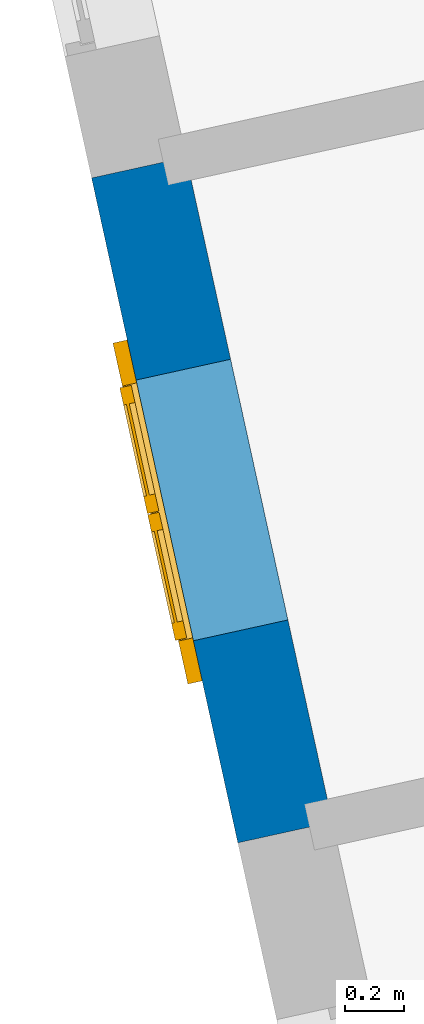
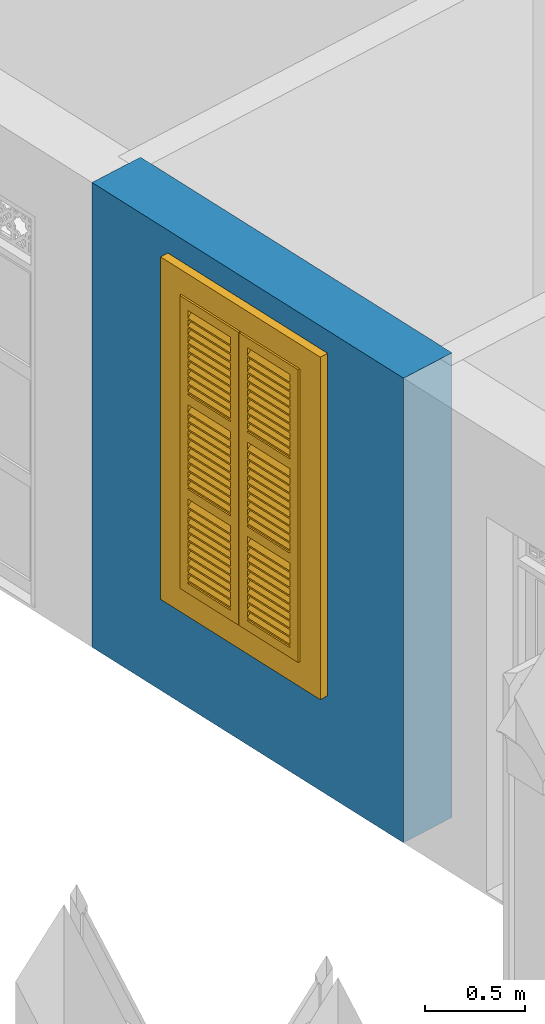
# One storey, part 11 of 14: 1 wall, 1 window, 1 opening.
"""IFC4 building model written with IfcOpenShell, lengths in metres."""

from ifc_helpers import new_model, si_unit, frame, origin, origin_with_axes, place, context, subcontext, project, spatial, polyline, outline, extrude, faceted_brep, source, transform, mapped, material, layer, layer_set, layer_usage, type_object, type_shapes, element, fill, save


model = new_model("IFC4")

# Units and contexts
model_context = context("Model", 3, world=origin_with_axes())
body_context = subcontext(model_context, "Body", "Model", "MODEL_VIEW")
ifc_project = project(units=[si_unit("PLANEANGLEUNIT", "RADIAN"), si_unit("MASSUNIT", "GRAM", prefix="KILO"), si_unit("FORCEUNIT", "NEWTON", prefix="KILO"), si_unit("LENGTHUNIT", "METRE"), si_unit("AREAUNIT", "SQUARE_METRE"), si_unit("VOLUMEUNIT", "CUBIC_METRE")], contexts=[model_context, model_context])

# Site, building, storey
site_placement = place(None, origin_with_axes())
site = spatial("IfcSite", under=ifc_project, at=site_placement, Name="Site plot-2", CompositionType="ELEMENT")
building_placement = place(None, origin_with_axes())
building = spatial("IfcBuilding", under=site, at=building_placement, Name="Building plot-2", CompositionType="ELEMENT")
storey_placement = place(None, origin_with_axes())
storey = spatial("IfcBuildingStorey", under=building, at=storey_placement, Name="plot-2 0", CompositionType="ELEMENT", Elevation=0.0)

# Wall, opening, window
ifc_material = material(Name="Masonry")
ifc_layer = layer(ifc_material, 0.33, ventilated=False)
ifc_layer_set = layer_set([ifc_layer], Name="exterior_0.08_0.25")
ifc_layer_usage = layer_usage(ifc_layer_set, "AXIS2", "POSITIVE", -0.25)
wall_type = type_object("IfcWallType", Name="exterior_0.08_0.25", PredefinedType="SOLIDWALL", material=ifc_layer_set)
wall_placement = place(storey_placement, frame((15.8386181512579, 11.7106513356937, 0.0), z_axis=(0.0, 0.0, 1.0), x_axis=(0.214808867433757, -0.976656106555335, 0.0)))
wall = element("IfcWall", 1, at=wall_placement, inside=storey, type_object=wall_type, material=ifc_layer_usage, Name="exterior", context=body_context, shape_type="SweptSolid", body=[
    extrude(outline(polyline([(7.50968459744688e-16, 0.0799999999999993), (-3.15454872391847e-15, -0.25), (2.32106852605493, -0.250000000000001), (2.32106852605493, 0.0800000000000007), (7.50968459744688e-16, 0.0799999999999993)])), origin_with_axes(), (0.0, 0.0, 1.0), 2.85),
])
opening_placement = place(wall_placement, frame((0.705534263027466, 0.0, 0.75)))
opening = element("IfcOpeningElement", 2, at=opening_placement, cuts=wall, Name="My Opening", ObjectType="Opening", context=body_context, shape_type="SweptSolid", body=[
    extrude(outline(polyline([(0.0, -0.270000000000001), (0.91, -0.270000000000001), (0.909999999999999, 1.1), (-8.88178419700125e-16, 1.1), (0.0, -0.270000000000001)])), origin_with_axes(), (0.0, 0.0, 1.0), 1.82),
])
window_type = type_object("IfcWindowType", Name="shuttered_big", PartitioningType="DOUBLE_PANEL_HORIZONTAL", PredefinedType="NOTDEFINED")
shared_shape = source(origin(), body_context, "Body", "Brep", [
    faceted_brep([(0.074, 0.0, 0.810667), (0.393, 0.0, 0.810667), (0.393, 0.0, 0.800667), (0.074, 0.0, 0.800667), (0.074, -0.04, 0.770667), (0.393, -0.04, 0.770667), (0.393, -0.04, 0.760667), (0.074, -0.04, 0.760667), (0.517, 0.0, 0.232), (0.836, 0.0, 0.232), (0.836, 0.0, 0.222), (0.517, 0.0, 0.222), (0.517, -0.04, 0.192), (0.836, -0.04, 0.192), (0.836, -0.04, 0.182), (0.517, -0.04, 0.182), (0.517, 0.0, 0.532), (0.836, 0.0, 0.532), (0.836, 0.0, 0.522), (0.517, 0.0, 0.522), (0.517, -0.04, 0.492), (0.836, -0.04, 0.492), (0.836, -0.04, 0.482), (0.517, -0.04, 0.482), (0.517, 0.0, 0.482), (0.836, 0.0, 0.482), (0.836, 0.0, 0.472), (0.517, 0.0, 0.472), (0.517, -0.04, 0.442), (0.836, -0.04, 0.442), (0.836, -0.04, 0.432), (0.517, -0.04, 0.432), (0.517, 0.0, 0.582), (0.836, 0.0, 0.582), (0.836, 0.0, 0.572), (0.517, 0.0, 0.572), (0.517, -0.04, 0.542), (0.836, -0.04, 0.542), (0.836, -0.04, 0.532), (0.517, -0.04, 0.532), (0.517, 0.0, 0.182), (0.836, 0.0, 0.182), (0.836, 0.0, 0.172), (0.517, 0.0, 0.172), (0.517, -0.04, 0.142), (0.836, -0.04, 0.142), (0.836, -0.04, 0.132), (0.517, -0.04, 0.132), (0.517, 0.0, 0.382), (0.836, 0.0, 0.382), (0.836, 0.0, 0.372), (0.517, 0.0, 0.372), (0.517, -0.04, 0.342), (0.836, -0.04, 0.342), (0.836, -0.04, 0.332), (0.517, -0.04, 0.332), (0.517, 0.0, 0.432), (0.836, 0.0, 0.432), (0.836, 0.0, 0.422), (0.517, 0.0, 0.422), (0.517, -0.04, 0.392), (0.836, -0.04, 0.392), (0.836, -0.04, 0.382), (0.517, -0.04, 0.382), (0.517, 0.0, 0.132), (0.836, 0.0, 0.132), (0.836, 0.0, 0.122), (0.517, 0.0, 0.122), (0.517, -0.04, 0.092), (0.836, -0.04, 0.092), (0.836, -0.04, 0.082), (0.517, -0.04, 0.082), (0.517, 0.0, 0.282), (0.836, 0.0, 0.282), (0.836, 0.0, 0.272), (0.517, 0.0, 0.272), (0.517, -0.04, 0.242), (0.836, -0.04, 0.242), (0.836, -0.04, 0.232), (0.517, -0.04, 0.232), (0.517, 0.0, 0.332), (0.836, 0.0, 0.332), (0.836, 0.0, 0.322), (0.517, 0.0, 0.322), (0.517, -0.04, 0.292), (0.836, -0.04, 0.292), (0.836, -0.04, 0.282), (0.517, -0.04, 0.282), (0.517, 0.0, 0.810667), (0.836, 0.0, 0.810667), (0.836, 0.0, 0.800667), (0.517, 0.0, 0.800667), (0.517, -0.04, 0.770667), (0.836, -0.04, 0.770667), (0.836, -0.04, 0.760667), (0.517, -0.04, 0.760667), (0.517, 0.0, 1.110667), (0.836, 0.0, 1.110667), (0.836, 0.0, 1.100667), (0.517, 0.0, 1.100667), (0.517, -0.04, 1.070667), (0.836, -0.04, 1.070667), (0.836, -0.04, 1.060667), (0.517, -0.04, 1.060667), (0.517, 0.0, 1.060667), (0.836, 0.0, 1.060667), (0.836, 0.0, 1.050667), (0.517, 0.0, 1.050667), (0.517, -0.04, 1.020667), (0.836, -0.04, 1.020667), (0.836, -0.04, 1.010667), (0.517, -0.04, 1.010667), (0.517, 0.0, 1.160667), (0.836, 0.0, 1.160667), (0.836, 0.0, 1.150667), (0.517, 0.0, 1.150667), (0.517, -0.04, 1.120667), (0.836, -0.04, 1.120667), (0.836, -0.04, 1.110667), (0.517, -0.04, 1.110667), (0.517, 0.0, 0.760667), (0.836, 0.0, 0.760667), (0.836, 0.0, 0.750667), (0.517, 0.0, 0.750667), (0.517, -0.04, 0.720667), (0.836, -0.04, 0.720667), (0.836, -0.04, 0.710667), (0.517, -0.04, 0.710667), (0.517, 0.0, 0.960667), (0.836, 0.0, 0.960667), (0.836, 0.0, 0.950667), (0.517, 0.0, 0.950667), (0.517, -0.04, 0.920667), (0.836, -0.04, 0.920667), (0.836, -0.04, 0.910667), (0.517, -0.04, 0.910667), (0.517, 0.0, 1.010667), (0.836, 0.0, 1.010667), (0.836, 0.0, 1.0), (0.517, 0.0, 1.0), (0.517, -0.04, 0.970667), (0.836, -0.04, 0.970667), (0.836, -0.04, 0.960667), (0.517, -0.04, 0.960667), (0.517, 0.0, 0.710667), (0.836, 0.0, 0.710667), (0.836, 0.0, 0.700667), (0.517, 0.0, 0.700667), (0.517, -0.04, 0.670667), (0.836, -0.04, 0.670667), (0.836, -0.04, 0.660667), (0.517, -0.04, 0.660667), (0.517, 0.0, 0.860667), (0.836, 0.0, 0.860667), (0.836, 0.0, 0.850667), (0.517, 0.0, 0.850667), (0.517, -0.04, 0.820667), (0.836, -0.04, 0.820667), (0.836, -0.04, 0.810667), (0.517, -0.04, 0.810667), (0.517, 0.0, 0.910667), (0.836, 0.0, 0.910667), (0.836, 0.0, 0.900667), (0.517, 0.0, 0.900667), (0.517, -0.04, 0.870667), (0.836, -0.04, 0.870667), (0.836, -0.04, 0.860667), (0.517, -0.04, 0.860667), (0.517, 0.0, 1.389333), (0.836, 0.0, 1.389333), (0.836, 0.0, 1.379333), (0.517, 0.0, 1.379333), (0.517, -0.04, 1.349333), (0.836, -0.04, 1.349333), (0.836, -0.04, 1.339333), (0.517, -0.04, 1.339333), (0.517, 0.0, 1.689333), (0.836, 0.0, 1.689333), (0.836, 0.0, 1.679333), (0.517, 0.0, 1.679333), (0.517, -0.04, 1.649333), (0.836, -0.04, 1.649333), (0.836, -0.04, 1.639333), (0.517, -0.04, 1.639333), (0.517, 0.0, 1.639333), (0.836, 0.0, 1.639333), (0.836, 0.0, 1.629333), (0.517, 0.0, 1.629333), (0.517, -0.04, 1.599333), (0.836, -0.04, 1.599333), (0.836, -0.04, 1.589333), (0.517, -0.04, 1.589333), (0.517, 0.0, 1.739333), (0.836, 0.0, 1.739333), (0.836, 0.0, 1.729333), (0.517, 0.0, 1.729333), (0.517, -0.04, 1.699333), (0.836, -0.04, 1.699333), (0.836, -0.04, 1.689333), (0.517, -0.04, 1.689333), (0.517, 0.0, 1.339333), (0.836, 0.0, 1.339333), (0.836, 0.0, 1.329333), (0.517, 0.0, 1.329333), (0.517, -0.04, 1.299333), (0.836, -0.04, 1.299333), (0.836, -0.04, 1.289333), (0.517, -0.04, 1.289333), (0.517, 0.0, 1.539333), (0.836, 0.0, 1.539333), (0.836, 0.0, 1.529333), (0.517, 0.0, 1.529333), (0.517, -0.04, 1.499333), (0.836, -0.04, 1.499333), (0.836, -0.04, 1.489333), (0.517, -0.04, 1.489333), (0.517, 0.0, 1.589333), (0.836, 0.0, 1.589333), (0.836, 0.0, 1.579333), (0.517, 0.0, 1.579333), (0.517, -0.04, 1.549333), (0.836, -0.04, 1.549333), (0.836, -0.04, 1.539333), (0.517, -0.04, 1.539333), (0.517, 0.0, 1.289333), (0.836, 0.0, 1.289333), (0.836, 0.0, 1.279333), (0.517, 0.0, 1.279333), (0.517, -0.04, 1.249333), (0.836, -0.04, 1.249333), (0.836, -0.04, 1.239333), (0.517, -0.04, 1.239333), (0.517, 0.0, 1.439333), (0.836, 0.0, 1.439333), (0.836, 0.0, 1.429333), (0.517, 0.0, 1.429333), (0.517, -0.04, 1.399333), (0.836, -0.04, 1.399333), (0.836, -0.04, 1.389333), (0.517, -0.04, 1.389333), (0.517, 0.0, 1.489333), (0.836, 0.0, 1.489333), (0.836, 0.0, 1.479333), (0.517, 0.0, 1.479333), (0.517, -0.04, 1.449333), (0.836, -0.04, 1.449333), (0.836, -0.04, 1.439333), (0.517, -0.04, 1.439333), (0.074, 0.0, 0.232), (0.393, 0.0, 0.232), (0.393, 0.0, 0.222), (0.074, 0.0, 0.222), (0.074, -0.04, 0.192), (0.393, -0.04, 0.192), (0.393, -0.04, 0.182), (0.074, -0.04, 0.182), (0.074, 0.0, 0.532), (0.393, 0.0, 0.532), (0.393, 0.0, 0.522), (0.074, 0.0, 0.522), (0.074, -0.04, 0.492), (0.393, -0.04, 0.492), (0.393, -0.04, 0.482), (0.074, -0.04, 0.482), (0.074, 0.0, 0.482), (0.393, 0.0, 0.482), (0.393, 0.0, 0.472), (0.074, 0.0, 0.472), (0.074, -0.04, 0.442), (0.393, -0.04, 0.442), (0.393, -0.04, 0.432), (0.074, -0.04, 0.432), (0.074, 0.0, 0.582), (0.393, 0.0, 0.582), (0.393, 0.0, 0.572), (0.074, 0.0, 0.572), (0.074, -0.04, 0.542), (0.393, -0.04, 0.542), (0.393, -0.04, 0.532), (0.074, -0.04, 0.532), (0.074, 0.0, 0.182), (0.393, 0.0, 0.182), (0.393, 0.0, 0.172), (0.074, 0.0, 0.172), (0.074, -0.04, 0.142), (0.393, -0.04, 0.142), (0.393, -0.04, 0.132), (0.074, -0.04, 0.132), (0.074, 0.0, 0.382), (0.393, 0.0, 0.382), (0.393, 0.0, 0.372), (0.074, 0.0, 0.372), (0.074, -0.04, 0.342), (0.393, -0.04, 0.342), (0.393, -0.04, 0.332), (0.074, -0.04, 0.332), (0.074, 0.0, 0.432), (0.393, 0.0, 0.432), (0.393, 0.0, 0.422), (0.074, 0.0, 0.422), (0.074, -0.04, 0.392), (0.393, -0.04, 0.392), (0.393, -0.04, 0.382), (0.074, -0.04, 0.382), (0.074, 0.0, 0.132), (0.393, 0.0, 0.132), (0.393, 0.0, 0.122), (0.074, 0.0, 0.122), (0.074, -0.04, 0.092), (0.393, -0.04, 0.092), (0.393, -0.04, 0.082), (0.074, -0.04, 0.082), (0.074, 0.0, 0.282), (0.393, 0.0, 0.282), (0.393, 0.0, 0.272), (0.074, 0.0, 0.272), (0.074, -0.04, 0.242), (0.393, -0.04, 0.242), (0.393, -0.04, 0.232), (0.074, -0.04, 0.232), (0.074, 0.0, 0.332), (0.393, 0.0, 0.332), (0.393, 0.0, 0.322), (0.074, 0.0, 0.322), (0.074, -0.04, 0.292), (0.393, -0.04, 0.292), (0.393, -0.04, 0.282), (0.074, -0.04, 0.282), (0.074, 0.0, 1.110667), (0.393, 0.0, 1.110667), (0.393, 0.0, 1.100667), (0.074, 0.0, 1.100667), (0.074, -0.04, 1.070667), (0.393, -0.04, 1.070667), (0.393, -0.04, 1.060667), (0.074, -0.04, 1.060667), (0.074, 0.0, 1.060667), (0.393, 0.0, 1.060667), (0.393, 0.0, 1.050667), (0.074, 0.0, 1.050667), (0.074, -0.04, 1.020667), (0.393, -0.04, 1.020667), (0.393, -0.04, 1.010667), (0.074, -0.04, 1.010667), (0.074, 0.0, 1.160667), (0.393, 0.0, 1.160667), (0.393, 0.0, 1.150667), (0.074, 0.0, 1.150667), (0.074, -0.04, 1.120667), (0.393, -0.04, 1.120667), (0.393, -0.04, 1.110667), (0.074, -0.04, 1.110667), (0.074, 0.0, 0.760667), (0.393, 0.0, 0.760667), (0.393, 0.0, 0.750667), (0.074, 0.0, 0.750667), (0.074, -0.04, 0.720667), (0.393, -0.04, 0.720667), (0.393, -0.04, 0.710667), (0.074, -0.04, 0.710667), (0.074, 0.0, 0.960667), (0.393, 0.0, 0.960667), (0.393, 0.0, 0.950667), (0.074, 0.0, 0.950667), (0.074, -0.04, 0.920667), (0.393, -0.04, 0.920667), (0.393, -0.04, 0.910667), (0.074, -0.04, 0.910667), (0.074, 0.0, 1.010667), (0.393, 0.0, 1.010667), (0.393, 0.0, 1.0), (0.074, 0.0, 1.0), (0.074, -0.04, 0.970667), (0.393, -0.04, 0.970667), (0.393, -0.04, 0.960667), (0.074, -0.04, 0.960667), (0.074, 0.0, 0.710667), (0.393, 0.0, 0.710667), (0.393, 0.0, 0.700667), (0.074, 0.0, 0.700667), (0.074, -0.04, 0.670667), (0.393, -0.04, 0.670667), (0.393, -0.04, 0.660667), (0.074, -0.04, 0.660667), (0.074, 0.0, 0.860667), (0.393, 0.0, 0.860667), (0.393, 0.0, 0.850667), (0.074, 0.0, 0.850667), (0.074, -0.04, 0.820667), (0.393, -0.04, 0.820667), (0.393, -0.04, 0.810667), (0.074, -0.04, 0.810667), (0.074, 0.0, 0.910667), (0.393, 0.0, 0.910667), (0.393, 0.0, 0.900667), (0.074, 0.0, 0.900667), (0.074, -0.04, 0.870667), (0.393, -0.04, 0.870667), (0.393, -0.04, 0.860667), (0.074, -0.04, 0.860667), (0.074, 0.0, 1.389333), (0.393, 0.0, 1.389333), (0.393, 0.0, 1.379333), (0.074, 0.0, 1.379333), (0.074, -0.04, 1.349333), (0.393, -0.04, 1.349333), (0.393, -0.04, 1.339333), (0.074, -0.04, 1.339333), (0.074, 0.0, 1.689333), (0.393, 0.0, 1.689333), (0.393, 0.0, 1.679333), (0.074, 0.0, 1.679333), (0.074, -0.04, 1.649333), (0.393, -0.04, 1.649333), (0.393, -0.04, 1.639333), (0.074, -0.04, 1.639333), (0.074, 0.0, 1.639333), (0.393, 0.0, 1.639333), (0.393, 0.0, 1.629333), (0.074, 0.0, 1.629333), (0.074, -0.04, 1.599333), (0.393, -0.04, 1.599333), (0.393, -0.04, 1.589333), (0.074, -0.04, 1.589333), (0.074, 0.0, 1.739333), (0.393, 0.0, 1.739333), (0.393, 0.0, 1.729333), (0.074, 0.0, 1.729333), (0.074, -0.04, 1.699333), (0.393, -0.04, 1.699333), (0.393, -0.04, 1.689333), (0.074, -0.04, 1.689333), (0.074, 0.0, 1.339333), (0.393, 0.0, 1.339333), (0.393, 0.0, 1.329333), (0.074, 0.0, 1.329333), (0.074, -0.04, 1.299333), (0.393, -0.04, 1.299333), (0.393, -0.04, 1.289333), (0.074, -0.04, 1.289333), (0.074, 0.0, 1.539333), (0.393, 0.0, 1.539333), (0.393, 0.0, 1.529333), (0.074, 0.0, 1.529333), (0.074, -0.04, 1.499333), (0.393, -0.04, 1.499333), (0.393, -0.04, 1.489333), (0.074, -0.04, 1.489333), (0.074, 0.0, 1.589333), (0.393, 0.0, 1.589333), (0.393, 0.0, 1.579333), (0.074, 0.0, 1.579333), (0.074, -0.04, 1.549333), (0.393, -0.04, 1.549333), (0.393, -0.04, 1.539333), (0.074, -0.04, 1.539333), (0.074, 0.0, 1.289333), (0.393, 0.0, 1.289333), (0.393, 0.0, 1.279333), (0.074, 0.0, 1.279333), (0.074, -0.04, 1.249333), (0.393, -0.04, 1.249333), (0.393, -0.04, 1.239333), (0.074, -0.04, 1.239333), (0.074, 0.0, 1.439333), (0.393, 0.0, 1.439333), (0.393, 0.0, 1.429333), (0.074, 0.0, 1.429333), (0.074, -0.04, 1.399333), (0.393, -0.04, 1.399333), (0.393, -0.04, 1.389333), (0.074, -0.04, 1.389333), (0.074, 0.0, 1.489333), (0.393, 0.0, 1.489333), (0.393, 0.0, 1.479333), (0.074, 0.0, 1.479333), (0.074, -0.04, 1.449333), (0.393, -0.04, 1.449333), (0.393, -0.04, 1.439333), (0.074, -0.04, 1.439333), (0.517, -0.04, 0.072), (0.457, -0.04, 0.012), (0.896, -0.04, 0.012), (0.836, -0.04, 0.072), (0.457, -0.04, 0.590667), (0.517, -0.04, 0.590667), (0.457, 0.0, 0.012), (0.896, 0.0, 0.012), (0.836, -0.04, 0.590667), (0.896, -0.04, 0.590667), (0.836, 0.0, 0.072), (0.517, 0.0, 0.072), (0.457, 0.0, 0.590667), (0.517, 0.0, 0.590667), (0.517, -0.04, 0.650667), (0.457, -0.04, 0.650667), (0.896, 0.0, 0.590667), (0.836, 0.0, 0.590667), (0.836, -0.04, 0.650667), (0.896, -0.04, 0.650667), (0.457, 0.0, 0.650667), (0.457, -0.04, 1.169333), (0.517, -0.04, 1.169333), (0.896, 0.0, 0.650667), (0.836, -0.04, 1.169333), (0.896, -0.04, 1.169333), (0.457, 0.0, 1.169333), (0.517, 0.0, 0.650667), (0.836, 0.0, 0.650667), (0.517, 0.0, 1.169333), (0.517, -0.04, 1.229333), (0.457, -0.04, 1.229333), (0.896, 0.0, 1.169333), (0.836, 0.0, 1.169333), (0.836, -0.04, 1.229333), (0.896, -0.04, 1.229333), (0.457, 0.0, 1.229333), (0.517, -0.04, 1.748), (0.457, -0.04, 1.808), (0.896, 0.0, 1.229333), (0.896, -0.04, 1.808), (0.836, -0.04, 1.748), (0.457, 0.0, 1.808), (0.517, 0.0, 1.229333), (0.836, 0.0, 1.229333), (0.517, 0.0, 1.748), (0.896, 0.0, 1.808), (0.836, 0.0, 1.748), (0.074, -0.04, 0.072), (0.014, -0.04, 0.012), (0.453, -0.04, 0.012), (0.393, -0.04, 0.072), (0.014, -0.04, 0.590667), (0.074, -0.04, 0.590667), (0.014, 0.0, 0.012), (0.453, 0.0, 0.012), (0.393, -0.04, 0.590667), (0.453, -0.04, 0.590667), (0.393, 0.0, 0.072), (0.074, 0.0, 0.072), (0.014, 0.0, 0.590667), (0.074, 0.0, 0.590667), (0.074, -0.04, 0.650667), (0.014, -0.04, 0.650667), (0.453, 0.0, 0.590667), (0.393, 0.0, 0.590667), (0.393, -0.04, 0.650667), (0.453, -0.04, 0.650667), (0.014, 0.0, 0.650667), (0.014, -0.04, 1.169333), (0.074, -0.04, 1.169333), (0.453, 0.0, 0.650667), (0.393, -0.04, 1.169333), (0.453, -0.04, 1.169333), (0.014, 0.0, 1.169333), (0.074, 0.0, 0.650667), (0.393, 0.0, 0.650667), (0.074, 0.0, 1.169333), (0.074, -0.04, 1.229333), (0.014, -0.04, 1.229333), (0.453, 0.0, 1.169333), (0.393, 0.0, 1.169333), (0.393, -0.04, 1.229333), (0.453, -0.04, 1.229333), (0.014, 0.0, 1.229333), (0.074, -0.04, 1.748), (0.014, -0.04, 1.808), (0.453, 0.0, 1.229333), (0.453, -0.04, 1.808), (0.393, -0.04, 1.748), (0.014, 0.0, 1.808), (0.074, 0.0, 1.229333), (0.393, 0.0, 1.229333), (0.074, 0.0, 1.748), (0.453, 0.0, 1.808), (0.393, 0.0, 1.748), (0.0, 0.33, 1.82), (0.91, 0.33, 1.82), (0.85, 0.33, 1.76), (0.06, 0.33, 1.76), (1.05, -0.03, 1.96), (1.05, 0.25, 1.96), (-0.14, 0.25, 1.96), (-0.14, -0.03, 1.96), (0.0, 0.25, 1.82), (0.91, 0.25, 1.82), (0.9, 0.25, 1.81), (0.01, 0.25, 1.81), (0.85, 0.33, 0.06), (0.91, 0.33, 0.0), (0.85, 0.25, 1.76), (0.06, 0.25, 1.76), (0.0, 0.33, 0.0), (0.06, 0.33, 0.06), (0.0, 0.25, 0.0), (0.910046, 0.25, 1.82), (0.91, 0.25, 0.0), (0.85, 0.25, 0.06), (0.06, 0.25, 0.06), (0.9, 0.25, 0.01), (0.9, -0.03, 0.01), (0.9, -0.03, 1.81), (0.01, -0.03, 0.01), (-0.14, -0.03, -0.14), (1.05, -0.03, -0.14), (0.01, -0.03, 1.81), (0.01, 0.25, 0.01), (1.05, 0.25, -0.14), (-0.14, 0.25, -0.14)], [[[0, 1, 2, 3]], [[1, 0, 4, 5]], [[2, 1, 5, 6]], [[6, 7, 3, 2]], [[7, 4, 0, 3]], [[5, 4, 7, 6]], [[8, 9, 10, 11]], [[12, 13, 9, 8]], [[13, 14, 10, 9]], [[14, 15, 11, 10]], [[15, 12, 8, 11]], [[13, 12, 15, 14]], [[16, 17, 18, 19]], [[20, 21, 17, 16]], [[21, 22, 18, 17]], [[22, 23, 19, 18]], [[23, 20, 16, 19]], [[21, 20, 23, 22]], [[24, 25, 26, 27]], [[28, 29, 25, 24]], [[29, 30, 26, 25]], [[30, 31, 27, 26]], [[31, 28, 24, 27]], [[29, 28, 31, 30]], [[32, 33, 34, 35]], [[36, 37, 33, 32]], [[37, 38, 34, 33]], [[38, 39, 35, 34]], [[39, 36, 32, 35]], [[37, 36, 39, 38]], [[40, 41, 42, 43]], [[44, 45, 41, 40]], [[45, 46, 42, 41]], [[46, 47, 43, 42]], [[47, 44, 40, 43]], [[45, 44, 47, 46]], [[48, 49, 50, 51]], [[52, 53, 49, 48]], [[53, 54, 50, 49]], [[54, 55, 51, 50]], [[55, 52, 48, 51]], [[53, 52, 55, 54]], [[56, 57, 58, 59]], [[60, 61, 57, 56]], [[61, 62, 58, 57]], [[62, 63, 59, 58]], [[63, 60, 56, 59]], [[61, 60, 63, 62]], [[64, 65, 66, 67]], [[68, 69, 65, 64]], [[69, 70, 66, 65]], [[70, 71, 67, 66]], [[71, 68, 64, 67]], [[69, 68, 71, 70]], [[72, 73, 74, 75]], [[76, 77, 73, 72]], [[77, 78, 74, 73]], [[78, 79, 75, 74]], [[79, 76, 72, 75]], [[77, 76, 79, 78]], [[80, 81, 82, 83]], [[84, 85, 81, 80]], [[85, 86, 82, 81]], [[86, 87, 83, 82]], [[87, 84, 80, 83]], [[85, 84, 87, 86]], [[88, 89, 90, 91]], [[92, 93, 89, 88]], [[93, 94, 90, 89]], [[94, 95, 91, 90]], [[95, 92, 88, 91]], [[93, 92, 95, 94]], [[96, 97, 98, 99]], [[100, 101, 97, 96]], [[101, 102, 98, 97]], [[102, 103, 99, 98]], [[103, 100, 96, 99]], [[101, 100, 103, 102]], [[104, 105, 106, 107]], [[108, 109, 105, 104]], [[109, 110, 106, 105]], [[110, 111, 107, 106]], [[111, 108, 104, 107]], [[109, 108, 111, 110]], [[112, 113, 114, 115]], [[116, 117, 113, 112]], [[117, 118, 114, 113]], [[118, 119, 115, 114]], [[119, 116, 112, 115]], [[117, 116, 119, 118]], [[120, 121, 122, 123]], [[124, 125, 121, 120]], [[125, 126, 122, 121]], [[126, 127, 123, 122]], [[127, 124, 120, 123]], [[125, 124, 127, 126]], [[128, 129, 130, 131]], [[132, 133, 129, 128]], [[133, 134, 130, 129]], [[134, 135, 131, 130]], [[135, 132, 128, 131]], [[133, 132, 135, 134]], [[136, 137, 138, 139]], [[140, 141, 137, 136]], [[141, 142, 138, 137]], [[142, 143, 139, 138]], [[143, 140, 136, 139]], [[141, 140, 143, 142]], [[144, 145, 146, 147]], [[148, 149, 145, 144]], [[149, 150, 146, 145]], [[150, 151, 147, 146]], [[151, 148, 144, 147]], [[149, 148, 151, 150]], [[152, 153, 154, 155]], [[156, 157, 153, 152]], [[157, 158, 154, 153]], [[158, 159, 155, 154]], [[159, 156, 152, 155]], [[157, 156, 159, 158]], [[160, 161, 162, 163]], [[164, 165, 161, 160]], [[165, 166, 162, 161]], [[166, 167, 163, 162]], [[167, 164, 160, 163]], [[165, 164, 167, 166]], [[168, 169, 170, 171]], [[172, 173, 169, 168]], [[173, 174, 170, 169]], [[174, 175, 171, 170]], [[175, 172, 168, 171]], [[173, 172, 175, 174]], [[176, 177, 178, 179]], [[180, 181, 177, 176]], [[181, 182, 178, 177]], [[182, 183, 179, 178]], [[183, 180, 176, 179]], [[181, 180, 183, 182]], [[184, 185, 186, 187]], [[188, 189, 185, 184]], [[189, 190, 186, 185]], [[190, 191, 187, 186]], [[191, 188, 184, 187]], [[189, 188, 191, 190]], [[192, 193, 194, 195]], [[196, 197, 193, 192]], [[197, 198, 194, 193]], [[198, 199, 195, 194]], [[199, 196, 192, 195]], [[197, 196, 199, 198]], [[200, 201, 202, 203]], [[204, 205, 201, 200]], [[205, 206, 202, 201]], [[206, 207, 203, 202]], [[207, 204, 200, 203]], [[205, 204, 207, 206]], [[208, 209, 210, 211]], [[212, 213, 209, 208]], [[213, 214, 210, 209]], [[214, 215, 211, 210]], [[215, 212, 208, 211]], [[213, 212, 215, 214]], [[216, 217, 218, 219]], [[220, 221, 217, 216]], [[221, 222, 218, 217]], [[222, 223, 219, 218]], [[223, 220, 216, 219]], [[221, 220, 223, 222]], [[224, 225, 226, 227]], [[228, 229, 225, 224]], [[229, 230, 226, 225]], [[230, 231, 227, 226]], [[231, 228, 224, 227]], [[229, 228, 231, 230]], [[232, 233, 234, 235]], [[236, 237, 233, 232]], [[237, 238, 234, 233]], [[238, 239, 235, 234]], [[239, 236, 232, 235]], [[237, 236, 239, 238]], [[240, 241, 242, 243]], [[244, 245, 241, 240]], [[245, 246, 242, 241]], [[246, 247, 243, 242]], [[247, 244, 240, 243]], [[245, 244, 247, 246]], [[248, 249, 250, 251]], [[252, 253, 249, 248]], [[253, 254, 250, 249]], [[254, 255, 251, 250]], [[255, 252, 248, 251]], [[253, 252, 255, 254]], [[256, 257, 258, 259]], [[260, 261, 257, 256]], [[261, 262, 258, 257]], [[262, 263, 259, 258]], [[263, 260, 256, 259]], [[261, 260, 263, 262]], [[264, 265, 266, 267]], [[268, 269, 265, 264]], [[269, 270, 266, 265]], [[270, 271, 267, 266]], [[271, 268, 264, 267]], [[269, 268, 271, 270]], [[272, 273, 274, 275]], [[276, 277, 273, 272]], [[277, 278, 274, 273]], [[278, 279, 275, 274]], [[279, 276, 272, 275]], [[277, 276, 279, 278]], [[280, 281, 282, 283]], [[284, 285, 281, 280]], [[285, 286, 282, 281]], [[286, 287, 283, 282]], [[287, 284, 280, 283]], [[285, 284, 287, 286]], [[288, 289, 290, 291]], [[292, 293, 289, 288]], [[293, 294, 290, 289]], [[294, 295, 291, 290]], [[295, 292, 288, 291]], [[293, 292, 295, 294]], [[296, 297, 298, 299]], [[300, 301, 297, 296]], [[301, 302, 298, 297]], [[302, 303, 299, 298]], [[303, 300, 296, 299]], [[301, 300, 303, 302]], [[304, 305, 306, 307]], [[308, 309, 305, 304]], [[309, 310, 306, 305]], [[310, 311, 307, 306]], [[311, 308, 304, 307]], [[309, 308, 311, 310]], [[312, 313, 314, 315]], [[316, 317, 313, 312]], [[317, 318, 314, 313]], [[318, 319, 315, 314]], [[319, 316, 312, 315]], [[317, 316, 319, 318]], [[320, 321, 322, 323]], [[324, 325, 321, 320]], [[325, 326, 322, 321]], [[326, 327, 323, 322]], [[327, 324, 320, 323]], [[325, 324, 327, 326]], [[328, 329, 330, 331]], [[332, 333, 329, 328]], [[333, 334, 330, 329]], [[334, 335, 331, 330]], [[335, 332, 328, 331]], [[333, 332, 335, 334]], [[336, 337, 338, 339]], [[340, 341, 337, 336]], [[341, 342, 338, 337]], [[342, 343, 339, 338]], [[343, 340, 336, 339]], [[341, 340, 343, 342]], [[344, 345, 346, 347]], [[348, 349, 345, 344]], [[349, 350, 346, 345]], [[350, 351, 347, 346]], [[351, 348, 344, 347]], [[349, 348, 351, 350]], [[352, 353, 354, 355]], [[356, 357, 353, 352]], [[357, 358, 354, 353]], [[358, 359, 355, 354]], [[359, 356, 352, 355]], [[357, 356, 359, 358]], [[360, 361, 362, 363]], [[364, 365, 361, 360]], [[365, 366, 362, 361]], [[366, 367, 363, 362]], [[367, 364, 360, 363]], [[366, 365, 364, 367]], [[368, 369, 370, 371]], [[372, 373, 369, 368]], [[373, 374, 370, 369]], [[374, 375, 371, 370]], [[375, 372, 368, 371]], [[373, 372, 375, 374]], [[376, 377, 378, 379]], [[380, 381, 377, 376]], [[381, 382, 378, 377]], [[382, 383, 379, 378]], [[383, 380, 376, 379]], [[381, 380, 383, 382]], [[384, 385, 386, 387]], [[388, 389, 385, 384]], [[389, 390, 386, 385]], [[390, 391, 387, 386]], [[391, 388, 384, 387]], [[389, 388, 391, 390]], [[392, 393, 394, 395]], [[396, 397, 393, 392]], [[397, 398, 394, 393]], [[398, 399, 395, 394]], [[399, 396, 392, 395]], [[397, 396, 399, 398]], [[400, 401, 402, 403]], [[404, 405, 401, 400]], [[405, 406, 402, 401]], [[406, 407, 403, 402]], [[407, 404, 400, 403]], [[405, 404, 407, 406]], [[408, 409, 410, 411]], [[412, 413, 409, 408]], [[413, 414, 410, 409]], [[414, 415, 411, 410]], [[415, 412, 408, 411]], [[414, 413, 412, 415]], [[416, 417, 418, 419]], [[420, 421, 417, 416]], [[421, 422, 418, 417]], [[422, 423, 419, 418]], [[423, 420, 416, 419]], [[421, 420, 423, 422]], [[424, 425, 426, 427]], [[428, 429, 425, 424]], [[429, 430, 426, 425]], [[430, 431, 427, 426]], [[431, 428, 424, 427]], [[429, 428, 431, 430]], [[432, 433, 434, 435]], [[436, 437, 433, 432]], [[437, 438, 434, 433]], [[438, 439, 435, 434]], [[439, 436, 432, 435]], [[437, 436, 439, 438]], [[440, 441, 442, 443]], [[444, 445, 441, 440]], [[445, 446, 442, 441]], [[446, 447, 443, 442]], [[447, 444, 440, 443]], [[445, 444, 447, 446]], [[448, 449, 450, 451]], [[452, 453, 449, 448]], [[453, 454, 450, 449]], [[454, 455, 451, 450]], [[455, 452, 448, 451]], [[453, 452, 455, 454]], [[456, 457, 458, 459]], [[460, 461, 457, 456]], [[461, 462, 458, 457]], [[462, 463, 459, 458]], [[463, 460, 456, 459]], [[461, 460, 463, 462]], [[464, 465, 466, 467]], [[468, 469, 465, 464]], [[469, 470, 466, 465]], [[470, 471, 467, 466]], [[471, 468, 464, 467]], [[469, 468, 471, 470]], [[472, 473, 474, 475]], [[476, 477, 473, 472]], [[477, 478, 474, 473]], [[478, 479, 475, 474]], [[479, 476, 472, 475]], [[477, 476, 479, 478]], [[480, 481, 482, 483]], [[484, 481, 480, 485]], [[486, 487, 482, 481]], [[488, 483, 482, 489]], [[480, 483, 490, 491]], [[486, 481, 484, 492]], [[485, 480, 491, 493]], [[485, 494, 495, 484]], [[486, 491, 490, 487]], [[496, 489, 482, 487]], [[483, 488, 497, 490]], [[498, 488, 489, 499]], [[492, 484, 495, 500]], [[486, 492, 493, 491]], [[488, 485, 493, 497]], [[494, 485, 488, 498]], [[501, 495, 494, 502]], [[490, 497, 496, 487]], [[503, 499, 489, 496]], [[504, 498, 499, 505]], [[500, 495, 501, 506]], [[507, 493, 492, 500]], [[493, 507, 508, 497]], [[494, 498, 508, 507]], [[502, 494, 507, 509]], [[502, 510, 511, 501]], [[497, 508, 503, 496]], [[512, 505, 499, 503]], [[498, 504, 513, 508]], [[514, 504, 505, 515]], [[506, 501, 511, 516]], [[500, 506, 509, 507]], [[504, 502, 509, 513]], [[510, 502, 504, 514]], [[510, 517, 518, 511]], [[508, 513, 512, 503]], [[519, 515, 505, 512]], [[515, 520, 521, 514]], [[516, 511, 518, 522]], [[523, 509, 506, 516]], [[509, 523, 524, 513]], [[510, 514, 524, 523]], [[517, 510, 523, 525]], [[518, 517, 521, 520]], [[513, 524, 519, 512]], [[526, 520, 515, 519]], [[514, 521, 527, 524]], [[522, 518, 520, 526]], [[525, 523, 516, 522]], [[521, 517, 525, 527]], [[526, 519, 524, 527]], [[525, 522, 526, 527]], [[528, 529, 530, 531]], [[532, 529, 528, 533]], [[534, 535, 530, 529]], [[536, 531, 530, 537]], [[528, 531, 538, 539]], [[534, 529, 532, 540]], [[533, 528, 539, 541]], [[533, 542, 543, 532]], [[534, 539, 538, 535]], [[544, 537, 530, 535]], [[531, 536, 545, 538]], [[546, 536, 537, 547]], [[540, 532, 543, 548]], [[534, 540, 541, 539]], [[536, 533, 541, 545]], [[542, 533, 536, 546]], [[549, 543, 542, 550]], [[538, 545, 544, 535]], [[551, 547, 537, 544]], [[552, 546, 547, 553]], [[548, 543, 549, 554]], [[555, 541, 540, 548]], [[541, 555, 556, 545]], [[542, 546, 556, 555]], [[550, 542, 555, 557]], [[550, 558, 559, 549]], [[545, 556, 551, 544]], [[560, 553, 547, 551]], [[546, 552, 561, 556]], [[562, 552, 553, 563]], [[554, 549, 559, 564]], [[548, 554, 557, 555]], [[552, 550, 557, 561]], [[558, 550, 552, 562]], [[558, 565, 566, 559]], [[556, 561, 560, 551]], [[567, 563, 553, 560]], [[563, 568, 569, 562]], [[564, 559, 566, 570]], [[571, 557, 554, 564]], [[557, 571, 572, 561]], [[558, 562, 572, 571]], [[565, 558, 571, 573]], [[566, 565, 569, 568]], [[561, 572, 567, 560]], [[574, 568, 563, 567]], [[562, 569, 575, 572]], [[570, 566, 568, 574]], [[573, 571, 564, 570]], [[569, 565, 573, 575]], [[574, 567, 572, 575]], [[573, 570, 574, 575]], [[576, 577, 578, 579]], [[580, 581, 582, 583]], [[576, 584, 585, 577]], [[582, 581, 586, 587]], [[588, 578, 577, 589]], [[579, 578, 590, 591]], [[592, 576, 579, 593]], [[576, 592, 594, 584]], [[595, 584, 591, 590]], [[596, 585, 595]], [[595, 590, 597]], [[595, 597, 596]], [[589, 577, 585, 596]], [[578, 588, 597, 590]], [[589, 592, 593, 588]], [[593, 579, 591, 598]], [[592, 589, 596, 594]], [[598, 591, 584, 594]], [[594, 596, 597, 598]], [[588, 593, 598, 597]], [[599, 600, 601, 586]], [[602, 603, 604, 600]], [[601, 605, 587, 586]], [[600, 599, 606, 602]], [[607, 604, 603, 608]], [[599, 607, 608, 606]], [[605, 602, 606, 587]], [[602, 605, 583, 603]], [[600, 604, 580, 601]], [[580, 583, 605, 601]], [[606, 608, 582, 587]], [[599, 586, 581, 607]], [[582, 608, 603, 583]], [[580, 604, 607, 581]]]),
])
type_shapes(window_type, [shared_shape])
window_placement = place(storey_placement, frame((15.7264760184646, 10.9635885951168, 0.75), z_axis=(0.0, 0.0, 1.0), x_axis=(0.19547606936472, -0.888757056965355, 0.0)))
window = element("IfcWindow", 3, at=window_placement, inside=storey, type_object=window_type, Name="bedroom sahn window", OverallHeight=1.82, OverallWidth=0.91, context=body_context, shape_type="MappedRepresentation", body=[
    mapped(shared_shape, transform((0.0, 0.0, 0.0), scale=1.0)),
])
fill(opening, window)

save(model, "model.ifc")
